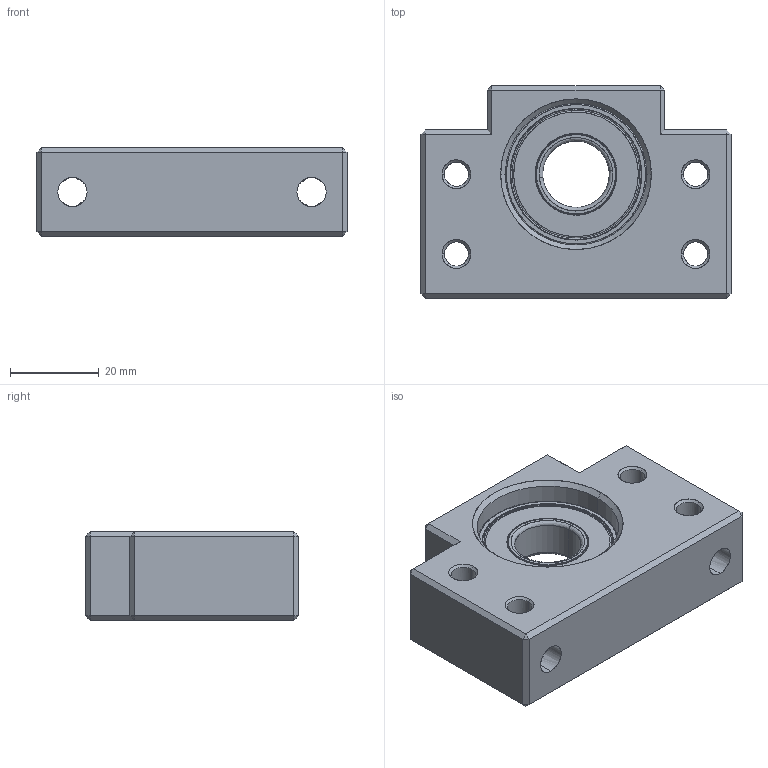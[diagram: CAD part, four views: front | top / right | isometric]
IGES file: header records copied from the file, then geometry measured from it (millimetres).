
Start section: SolidWorks IGES file using analytic representation for surfaces
Bounding box: 70 x 48 x 20 mm (x, y, z)
Surface area: 15144.2 mm2 (no closed solid volume)
Topology: 0 solids, 0 shells, 150 faces, 2492 edges, 2492 vertices
Faces by surface type: bspline 86, revolution 64
